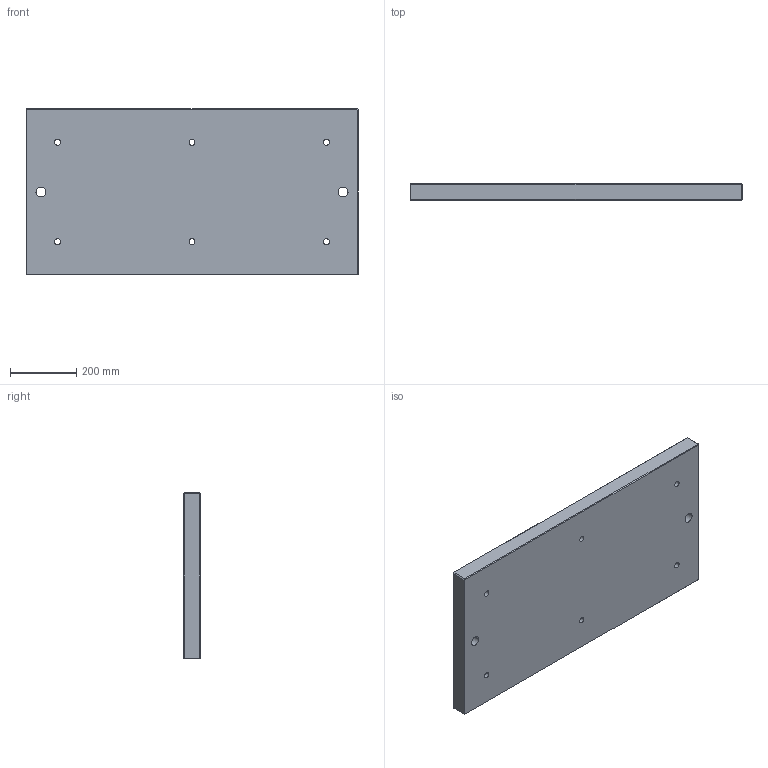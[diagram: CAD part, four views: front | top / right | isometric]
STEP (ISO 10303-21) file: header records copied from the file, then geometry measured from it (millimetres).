
FILE_DESCRIPTION((''),'2;1');
FILE_NAME('FG_WH_BASPL_RCPLNNP005','2026-05-17T09:35:32',('Admin'),(''),'CREO PARAMETRIC BY PTC INC, 2025010','CREO PARAMETRIC BY PTC INC, 2025010','');
FILE_SCHEMA(('CONFIG_CONTROL_DESIGN'));
Length unit declared in the file: millimetre
Products named in the file (1): FG_WH_BASPL_RCPLNNP005
Bounding box: 1000 x 50 x 500 mm (x, y, z)
Volume: 24811090.9 mm3; surface area: 1165735.8 mm2
Topology: 1 solids, 1 shells, 60 faces, 140 edges, 88 vertices
Faces by surface type: plane 32, cylinder 28
Entity records: 1782 total; most frequent: DIRECTION 316, CARTESIAN_POINT 288, ORIENTED_EDGE 280, EDGE_CURVE 140, AXIS2_PLACEMENT_3D 116, VERTEX_POINT 88, VECTOR 84, LINE 84
